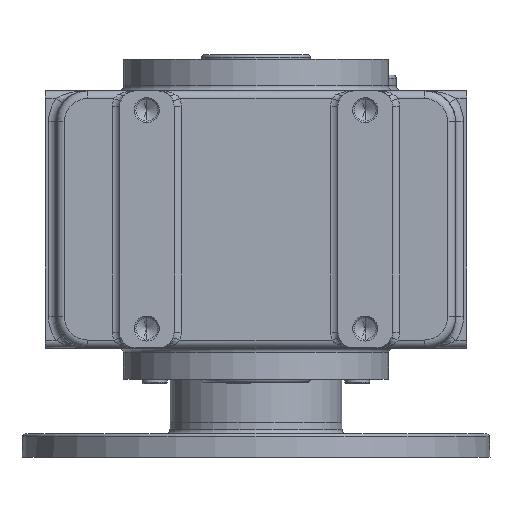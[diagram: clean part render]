
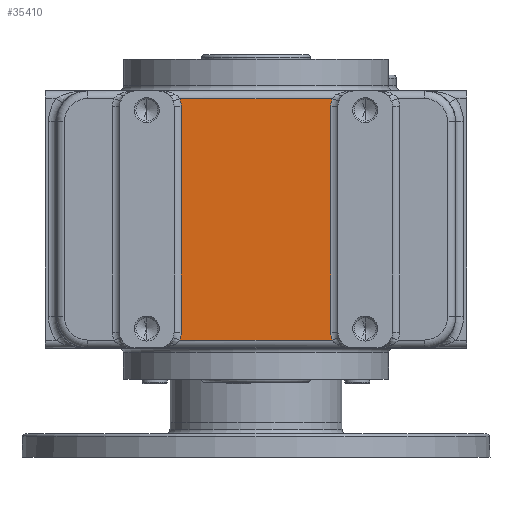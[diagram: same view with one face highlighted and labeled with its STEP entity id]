
A CAD part, front view. The second image highlights one B-rep face of the part: STEP entity #35410.
In plain terms, the highlighted planar face has unit normal (0, -1, 0).
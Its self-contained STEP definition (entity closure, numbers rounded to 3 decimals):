
#3464 = CARTESIAN_POINT ( 'NONE',  ( -48.845, -120., 159.869 ) ) ;
#3511 = DIRECTION ( 'NONE',  ( -1., 0., 0. ) ) ;
#3512 = VECTOR ( 'NONE', #3511, 1000. ) ;
#3513 = CARTESIAN_POINT ( 'NONE',  ( -62.5, -120., 159.869 ) ) ;
#3514 = LINE ( 'NONE', #3513, #3512 ) ;
#4005 = CARTESIAN_POINT ( 'NONE',  ( 48.845, -120., 159.869 ) ) ;
#4006 = CARTESIAN_POINT ( 'NONE',  ( -48.845, -120., 5.131 ) ) ;
#4007 = DIRECTION ( 'NONE',  ( 0., 0., -1. ) ) ;
#4008 = DIRECTION ( 'NONE',  ( 0., 1., 0. ) ) ;
#4009 = AXIS2_PLACEMENT_3D ( 'NONE', #4016, #4008, #4007 ) ;
#4010 = CIRCLE ( 'NONE', #4009, 14.556 ) ;
#4016 = CARTESIAN_POINT ( 'NONE',  ( -62.5, -120., 10.175 ) ) ;
#4020 = CARTESIAN_POINT ( 'NONE',  ( -47.944, -120., 154.825 ) ) ;
#4021 = DIRECTION ( 'NONE',  ( 0., 0., -1. ) ) ;
#4022 = DIRECTION ( 'NONE',  ( 0., 1., 0. ) ) ;
#4023 = CARTESIAN_POINT ( 'NONE',  ( 62.5, -120., 154.825 ) ) ;
#4024 = AXIS2_PLACEMENT_3D ( 'NONE', #4023, #4022, #4021 ) ;
#4025 = CIRCLE ( 'NONE', #4024, 14.556 ) ;
#4047 = CARTESIAN_POINT ( 'NONE',  ( -47.944, -120., 10.175 ) ) ;
#4048 = DIRECTION ( 'NONE',  ( 0., 0., -1. ) ) ;
#4049 = VECTOR ( 'NONE', #4048, 1000. ) ;
#4050 = CARTESIAN_POINT ( 'NONE',  ( -47.944, -120., 10.175 ) ) ;
#4051 = LINE ( 'NONE', #4050, #4049 ) ;
#4053 = DIRECTION ( 'NONE',  ( 0., 0., -1. ) ) ;
#4055 = DIRECTION ( 'NONE',  ( 0., 1., 0. ) ) ;
#4056 = AXIS2_PLACEMENT_3D ( 'NONE', #4062, #4055, #4053 ) ;
#4057 = CIRCLE ( 'NONE', #4056, 14.556 ) ;
#4062 = CARTESIAN_POINT ( 'NONE',  ( -62.5, -120., 154.825 ) ) ;
#5684 = DIRECTION ( 'NONE',  ( 0., 0., -1. ) ) ;
#5685 = DIRECTION ( 'NONE',  ( 0., 1., 0. ) ) ;
#5686 = CARTESIAN_POINT ( 'NONE',  ( 62.5, -120., 10.175 ) ) ;
#5687 = AXIS2_PLACEMENT_3D ( 'NONE', #5686, #5685, #5684 ) ;
#5688 = CIRCLE ( 'NONE', #5687, 14.556 ) ;
#9220 = CARTESIAN_POINT ( 'NONE',  ( 48.845, -120., 5.131 ) ) ;
#9221 = DIRECTION ( 'NONE',  ( 1., 0., 0. ) ) ;
#9222 = VECTOR ( 'NONE', #9221, 1000. ) ;
#9223 = CARTESIAN_POINT ( 'NONE',  ( 62.5, -120., 5.131 ) ) ;
#9224 = LINE ( 'NONE', #9223, #9222 ) ;
#35410 = ADVANCED_FACE ( 'NONE', ( #83537 ), #83548, .T. ) ;
#35493 = ORIENTED_EDGE ( 'NONE', *, *, #35497, .T. ) ;
#35497 = EDGE_CURVE ( 'NONE', #35544, #35546, #83708, .T. ) ;
#35533 = EDGE_LOOP ( 'NONE', ( #35493, #35547, #36087, #36110, #36165, #35994, #36244, #36331 ) ) ;
#35544 = VERTEX_POINT ( 'NONE', #83873 ) ;
#35546 = VERTEX_POINT ( 'NONE', #83871 ) ;
#35547 = ORIENTED_EDGE ( 'NONE', *, *, #36102, .T. ) ;
#35994 = ORIENTED_EDGE ( 'NONE', *, *, #36121, .T. ) ;
#36087 = ORIENTED_EDGE ( 'NONE', *, *, #36095, .T. ) ;
#36089 = VERTEX_POINT ( 'NONE', #3464 ) ;
#36095 = EDGE_CURVE ( 'NONE', #36127, #36089, #3514, .T. ) ;
#36102 = EDGE_CURVE ( 'NONE', #35546, #36127, #4025, .T. ) ;
#36110 = ORIENTED_EDGE ( 'NONE', *, *, #36158, .T. ) ;
#36112 = VERTEX_POINT ( 'NONE', #4020 ) ;
#36121 = EDGE_CURVE ( 'NONE', #36163, #36123, #4010, .T. ) ;
#36123 = VERTEX_POINT ( 'NONE', #4006 ) ;
#36127 = VERTEX_POINT ( 'NONE', #4005 ) ;
#36158 = EDGE_CURVE ( 'NONE', #36089, #36112, #4057, .T. ) ;
#36161 = EDGE_CURVE ( 'NONE', #36112, #36163, #4051, .T. ) ;
#36163 = VERTEX_POINT ( 'NONE', #4047 ) ;
#36165 = ORIENTED_EDGE ( 'NONE', *, *, #36161, .T. ) ;
#36189 = EDGE_CURVE ( 'NONE', #36247, #35544, #5688, .T. ) ;
#36244 = ORIENTED_EDGE ( 'NONE', *, *, #36246, .T. ) ;
#36246 = EDGE_CURVE ( 'NONE', #36123, #36247, #9224, .T. ) ;
#36247 = VERTEX_POINT ( 'NONE', #9220 ) ;
#36331 = ORIENTED_EDGE ( 'NONE', *, *, #36189, .T. ) ;
#83525 = DIRECTION ( 'NONE',  ( 0., 0., -1. ) ) ;
#83527 = DIRECTION ( 'NONE',  ( 0., -1., 0. ) ) ;
#83529 = CARTESIAN_POINT ( 'NONE',  ( -108., -120., 145. ) ) ;
#83530 = AXIS2_PLACEMENT_3D ( 'NONE', #83529, #83527, #83525 ) ;
#83537 = FACE_OUTER_BOUND ( 'NONE', #35533, .T. ) ;
#83548 = PLANE ( 'NONE',  #83530 ) ;
#83703 = DIRECTION ( 'NONE',  ( 0., 0., 1. ) ) ;
#83704 = VECTOR ( 'NONE', #83703, 1000. ) ;
#83706 = CARTESIAN_POINT ( 'NONE',  ( 47.944, -120., 154.825 ) ) ;
#83708 = LINE ( 'NONE', #83706, #83704 ) ;
#83871 = CARTESIAN_POINT ( 'NONE',  ( 47.944, -120., 154.825 ) ) ;
#83873 = CARTESIAN_POINT ( 'NONE',  ( 47.944, -120., 10.175 ) ) ;
